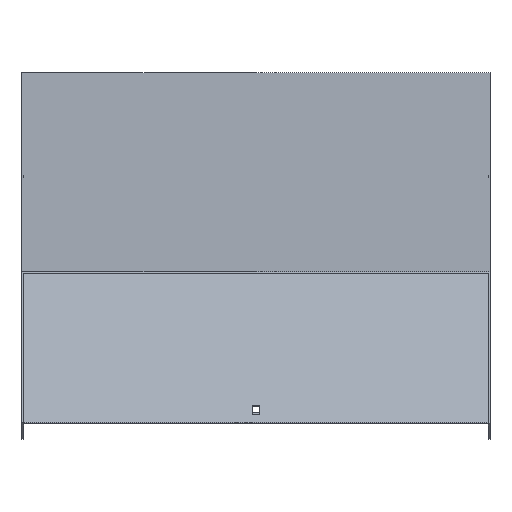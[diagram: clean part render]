
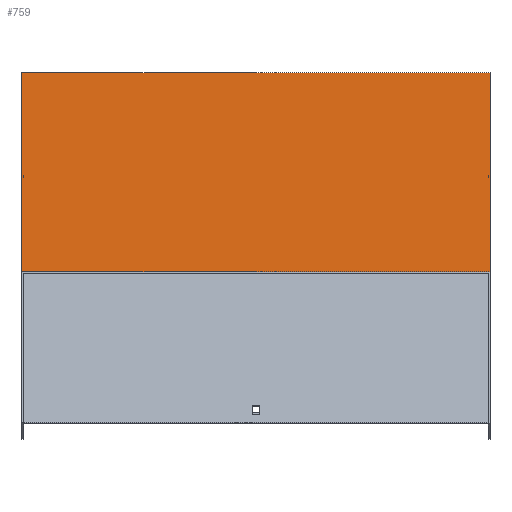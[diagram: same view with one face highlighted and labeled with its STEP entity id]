
A CAD part, top view. The second image highlights one B-rep face of the part: STEP entity #759.
In plain terms, the highlighted planar face has unit normal (0, 0.924, 0.383).
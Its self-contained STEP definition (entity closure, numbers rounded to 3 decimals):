
#26 = CARTESIAN_POINT ( 'NONE',  ( 201.5, -152.191, 599.684 ) ) ;
#75 = CARTESIAN_POINT ( 'NONE',  ( -201.5, -152.191, 599.684 ) ) ;
#101 = EDGE_CURVE ( 'NONE', #784, #270, #773, .T. ) ;
#111 = EDGE_CURVE ( 'NONE', #539, #784, #598, .T. ) ;
#118 = DIRECTION ( 'NONE',  ( 0., -0.383, 0.924 ) ) ;
#169 = ORIENTED_EDGE ( 'NONE', *, *, #111, .T. ) ;
#175 = CARTESIAN_POINT ( 'NONE',  ( -201.5, 18.478, 187.654 ) ) ;
#203 = ORIENTED_EDGE ( 'NONE', *, *, #542, .F. ) ;
#236 = DIRECTION ( 'NONE',  ( 0., -0.924, -0.383 ) ) ;
#241 = VECTOR ( 'NONE', #777, 1000. ) ;
#248 = CARTESIAN_POINT ( 'NONE',  ( 201.5, -152.191, 599.684 ) ) ;
#269 = CARTESIAN_POINT ( 'NONE',  ( 201.5, 20., 183.978 ) ) ;
#270 = VERTEX_POINT ( 'NONE', #75 ) ;
#307 = DIRECTION ( 'NONE',  ( 0., 0.383, -0.924 ) ) ;
#335 = AXIS2_PLACEMENT_3D ( 'NONE', #501, #236, #307 ) ;
#347 = EDGE_CURVE ( 'NONE', #496, #270, #505, .T. ) ;
#412 = ORIENTED_EDGE ( 'NONE', *, *, #101, .T. ) ;
#446 = DIRECTION ( 'NONE',  ( 0., -0.383, 0.924 ) ) ;
#459 = CARTESIAN_POINT ( 'NONE',  ( 201.5, 18.478, 187.654 ) ) ;
#496 = VERTEX_POINT ( 'NONE', #248 ) ;
#501 = CARTESIAN_POINT ( 'NONE',  ( 201.5, 18.478, 187.654 ) ) ;
#505 = LINE ( 'NONE', #26, #839 ) ;
#511 = VECTOR ( 'NONE', #446, 1000. ) ;
#539 = VERTEX_POINT ( 'NONE', #854 ) ;
#542 = EDGE_CURVE ( 'NONE', #539, #496, #722, .T. ) ;
#565 = DIRECTION ( 'NONE',  ( -1., 0., 0. ) ) ;
#598 = LINE ( 'NONE', #269, #241 ) ;
#632 = FACE_OUTER_BOUND ( 'NONE', #637, .T. ) ;
#637 = EDGE_LOOP ( 'NONE', ( #412, #796, #203, #169 ) ) ;
#687 = CARTESIAN_POINT ( 'NONE',  ( -201.5, 20., 183.978 ) ) ;
#722 = LINE ( 'NONE', #459, #802 ) ;
#759 = ADVANCED_FACE ( 'NONE', ( #632 ), #766, .F. ) ;
#766 = PLANE ( 'NONE',  #335 ) ;
#773 = LINE ( 'NONE', #175, #511 ) ;
#777 = DIRECTION ( 'NONE',  ( -1., 0., 0. ) ) ;
#784 = VERTEX_POINT ( 'NONE', #687 ) ;
#796 = ORIENTED_EDGE ( 'NONE', *, *, #347, .F. ) ;
#802 = VECTOR ( 'NONE', #118, 1000. ) ;
#839 = VECTOR ( 'NONE', #565, 1000. ) ;
#854 = CARTESIAN_POINT ( 'NONE',  ( 201.5, 20., 183.978 ) ) ;
